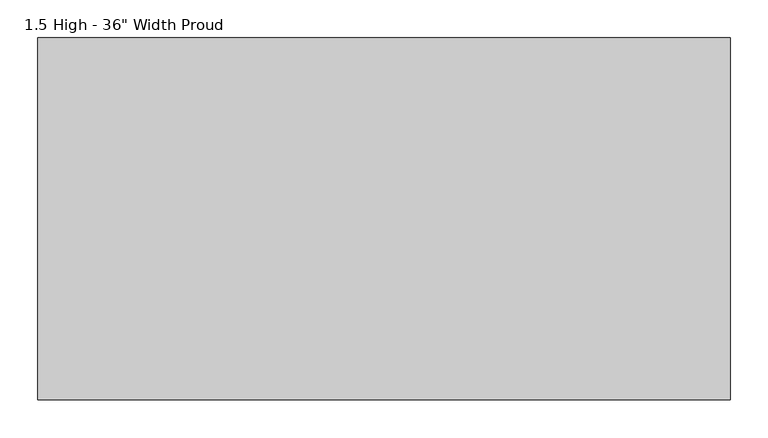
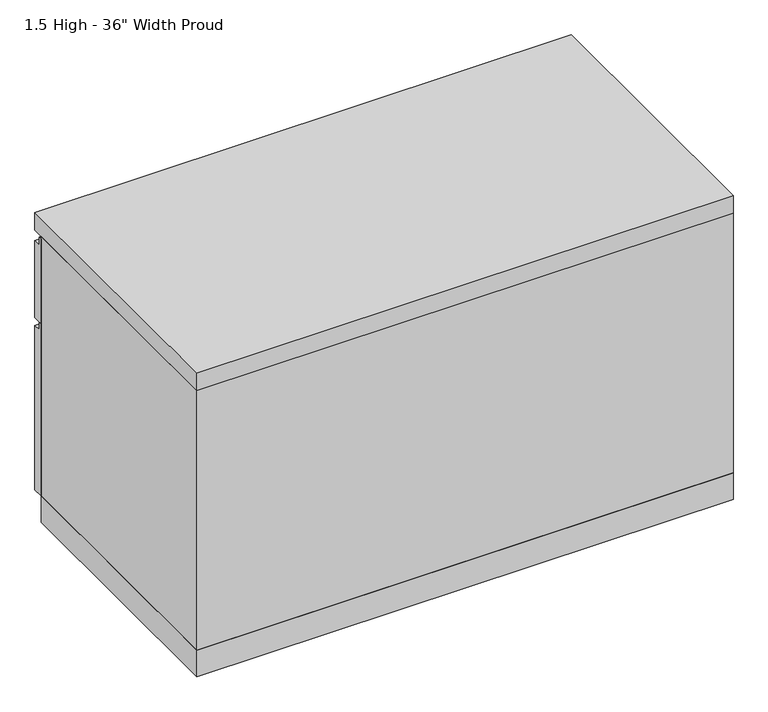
"""IFC4 building model written with IfcOpenShell, lengths in millimetres: furniture geometry."""

from ifc_helpers import new_model, si_unit, frame, origin, origin_with_axes, place, context, project, spatial, polyline, outline, extrude, source, transform, mapped, element, save


def furniture_c20d03a0(model_context):
    return source(origin(), model_context, "Body", "SweptSolid", [
        extrude(outline(polyline([(457.2, 357.1875), (457.2, 509.5875), (463.55, 509.5875), (463.55, 495.3), (476.25, 495.3), (476.25, 357.1875), (457.2, 357.1875)])), frame((-455.6125, 0.0, 0.0), z_axis=(1.0, 0.0, 0.0), x_axis=(0.0, 1.0, 0.0)), (0.0, 0.0, 1.0), 911.225),
        extrude(outline(polyline([(457.2, 47.625), (457.2, 357.1875), (463.55, 357.1875), (463.55, 342.9), (476.25, 342.9), (476.25, 47.625), (457.2, 47.625)])), frame((-455.6125, 0.0, 0.0), z_axis=(1.0, 0.0, 0.0), x_axis=(0.0, 1.0, 0.0)), (0.0, 0.0, 1.0), 911.225),
        extrude(outline(polyline([(455.6125, 0.0), (-455.6125, 0.0), (-455.6125, 457.2), (455.6125, 457.2), (455.6125, 0.0)])), origin_with_axes(), (0.0, 0.0, 1.0), 47.625),
        extrude(outline(polyline([(455.6125, 0.0), (-455.6125, 0.0), (-455.6125, 476.25), (455.6125, 476.25), (455.6125, 0.0)])), frame((0.0, 0.0, 514.35), z_axis=(0.0, 0.0, 1.0), x_axis=(1.0, 0.0, 0.0)), (0.0, 0.0, 1.0), 31.75),
        extrude(outline(polyline([(455.6125, 0.0), (-455.6125, 0.0), (-455.6125, 457.2), (-436.5625, 457.2), (-436.5625, 19.05), (436.5625, 19.05), (436.5625, 457.2), (455.6125, 457.2), (455.6125, 0.0)])), frame((0.0, 0.0, 47.625), z_axis=(0.0, 0.0, 1.0), x_axis=(1.0, 0.0, 0.0)), (0.0, 0.0, 1.0), 466.725),
    ])


if __name__ == "__main__":
    model = new_model("IFC4")
    model_context = context("Model", 3, world=origin())
    ifc_project = project(units=[si_unit("LENGTHUNIT", "METRE", prefix="MILLI")], contexts=[model_context])
    site = spatial("IfcSite", under=ifc_project)
    building = spatial("IfcBuilding", under=site)
    placement = place(None, origin())
    furniture_shape = furniture_c20d03a0(model_context)
    element("IfcFurniture", 1, ObjectType="Haworth_XSeries-Lateral_Files : 1.5 High - 36\" Width Proud", at=placement, inside=building, context=model_context, shape_type="MappedRepresentation", body=[
        mapped(furniture_shape, transform((0.0, 0.0, 0.0), x_axis=(1.0, 0.0, 0.0), y_axis=(0.0, 1.0, 0.0), z_axis=(0.0, 0.0, 1.0))),
    ])
    save(model, "model.ifc")
